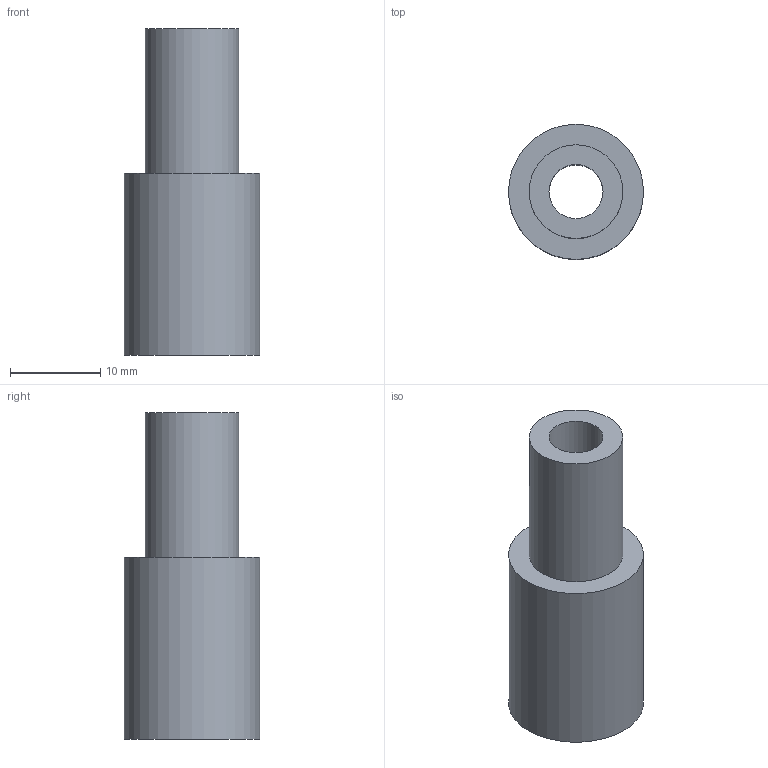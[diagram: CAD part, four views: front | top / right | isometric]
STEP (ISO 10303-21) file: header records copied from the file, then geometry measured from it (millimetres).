
FILE_DESCRIPTION(('Mechanical CAD reference from nasji.com'),'2;1');
FILE_NAME('NASJI.step','',(''),(''),'','NASJI distribution','');
FILE_SCHEMA(('AUTOMOTIVE_DESIGN { 1 0 10303 214 1 1 1 1 }'));
Length unit declared in the file: millimetre
Products named in the file (1): Open CASCADE STEP translator 7.8 154
Bounding box: 15 x 15 x 36.2 mm (x, y, z)
Volume: 3905.3 mm3; surface area: 2453.9 mm2
Topology: 1 solids, 1 shells, 6 faces, 9 edges, 6 vertices
Faces by surface type: cylinder 3, plane 3
Full cylindrical faces by diameter (mm): 6 x1, 10.4 x1, 15 x1
Entity records: 276 total; most frequent: CARTESIAN_POINT 52, DIRECTION 45, ORIENTED_EDGE 18, PCURVE 18, DEFINITIONAL_REPRESENTATION 18, LINE 15, VECTOR 15, AXIS2_PLACEMENT_3D 13
